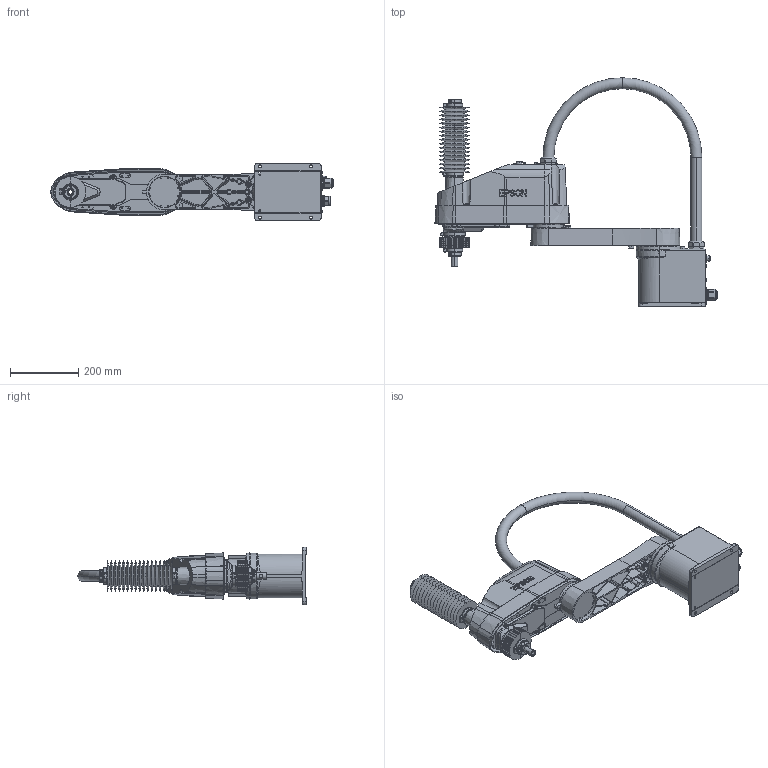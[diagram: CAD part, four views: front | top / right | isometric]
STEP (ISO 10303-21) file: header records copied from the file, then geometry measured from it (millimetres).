
FILE_DESCRIPTION (( 'STEP AP214' ), '1' );
FILE_NAME ('LA6-x602C.STEP', '2026-07-14T22:26:04', ( '' ), ( '' ), 'SwSTEP 2.0', 'SolidWorks 2020', '' );
FILE_SCHEMA (( 'AUTOMOTIVE_DESIGN' ));
Length unit declared in the file: millimetre
Products named in the file (6): LA6-A602C_J1_ARM; LA6-x602C; LA6-A_J2_ARM_1; LA6-A-C_Z_AXIS_1; LA6-A602C_CONDUIT; LA6-A-C_BASE_1
Assembly tree (5 placements, depth 2):
  LA6-x602C
    LA6-A-C_BASE_1
    LA6-A602C_J1_ARM
    LA6-A_J2_ARM_1
    LA6-A-C_Z_AXIS_1
    LA6-A602C_CONDUIT
Bounding box: 827.53 x 670 x 169 mm (x, y, z)
Volume: 12701538.9 mm3; surface area: 1302532.1 mm2
Topology: 4 solids, 5 shells, 2676 faces, 6841 edges, 4379 vertices
Faces by surface type: plane 1374, cone 637, cylinder 547, torus 88, sphere 22, bspline 8
Entity records: 106139 total; most frequent: CARTESIAN_POINT 32797, ORIENTED_EDGE 13590, DIRECTION 12810, EDGE_CURVE 6795, AXIS2_PLACEMENT_3D 4602, VERTEX_POINT 4379, LINE 3606, VECTOR 3606
